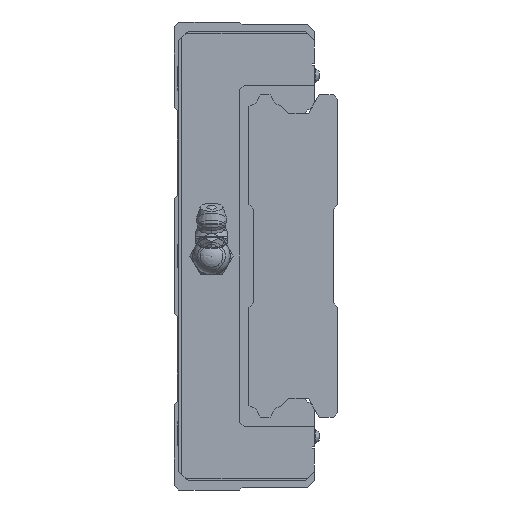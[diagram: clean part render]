
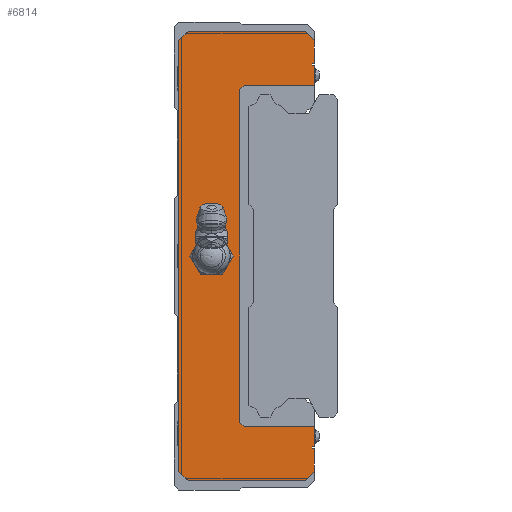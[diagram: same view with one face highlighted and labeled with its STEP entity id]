
A CAD part, left-side view. The second image highlights one B-rep face of the part: STEP entity #6814.
In plain terms, the highlighted planar face has unit normal (-1, 0, 0).
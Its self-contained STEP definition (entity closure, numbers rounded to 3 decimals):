
#124=LINE('',#10582,#548);
#139=LINE('',#10613,#563);
#146=LINE('',#10627,#570);
#150=LINE('',#10634,#574);
#158=LINE('',#10651,#582);
#161=LINE('',#10656,#585);
#180=LINE('',#10696,#604);
#181=LINE('',#10699,#605);
#182=LINE('',#10700,#606);
#183=LINE('',#10701,#607);
#184=LINE('',#10703,#608);
#185=LINE('',#10705,#609);
#186=LINE('',#10707,#610);
#187=LINE('',#10709,#611);
#188=LINE('',#10711,#612);
#189=LINE('',#10713,#613);
#190=LINE('',#10715,#614);
#191=LINE('',#10717,#615);
#192=LINE('',#10719,#616);
#193=LINE('',#10721,#617);
#194=LINE('',#10723,#618);
#195=LINE('',#10725,#619);
#548=VECTOR('',#8317,1000.);
#563=VECTOR('',#8334,1000.);
#570=VECTOR('',#8345,1000.);
#574=VECTOR('',#8351,1000.);
#582=VECTOR('',#8361,1000.);
#585=VECTOR('',#8366,1000.);
#604=VECTOR('',#8395,1000.);
#605=VECTOR('',#8396,1000.);
#606=VECTOR('',#8397,1000.);
#607=VECTOR('',#8398,1000.);
#608=VECTOR('',#8399,1000.);
#609=VECTOR('',#8400,1000.);
#610=VECTOR('',#8401,1000.);
#611=VECTOR('',#8402,1000.);
#612=VECTOR('',#8403,1000.);
#613=VECTOR('',#8404,1000.);
#614=VECTOR('',#8405,1000.);
#615=VECTOR('',#8406,1000.);
#616=VECTOR('',#8407,1000.);
#617=VECTOR('',#8408,1000.);
#618=VECTOR('',#8409,1000.);
#619=VECTOR('',#8410,1000.);
#937=PLANE('',#7329);
#1342=CIRCLE('',#7330,3.);
#1990=ORIENTED_EDGE('',*,*,#3574,.T.);
#1991=ORIENTED_EDGE('',*,*,#3575,.F.);
#1992=ORIENTED_EDGE('',*,*,#3576,.F.);
#1993=ORIENTED_EDGE('',*,*,#3543,.F.);
#1994=ORIENTED_EDGE('',*,*,#3539,.F.);
#1995=ORIENTED_EDGE('',*,*,#3532,.F.);
#1996=ORIENTED_EDGE('',*,*,#3577,.F.);
#1997=ORIENTED_EDGE('',*,*,#3517,.F.);
#1998=ORIENTED_EDGE('',*,*,#3554,.F.);
#1999=ORIENTED_EDGE('',*,*,#3551,.F.);
#2000=ORIENTED_EDGE('',*,*,#3578,.F.);
#2001=ORIENTED_EDGE('',*,*,#3579,.F.);
#2002=ORIENTED_EDGE('',*,*,#3580,.F.);
#2003=ORIENTED_EDGE('',*,*,#3581,.F.);
#2004=ORIENTED_EDGE('',*,*,#3582,.F.);
#2005=ORIENTED_EDGE('',*,*,#3583,.T.);
#2006=ORIENTED_EDGE('',*,*,#3584,.T.);
#2007=ORIENTED_EDGE('',*,*,#3585,.T.);
#2008=ORIENTED_EDGE('',*,*,#3586,.T.);
#2009=ORIENTED_EDGE('',*,*,#3587,.T.);
#2010=ORIENTED_EDGE('',*,*,#3588,.F.);
#2011=ORIENTED_EDGE('',*,*,#3589,.F.);
#2012=ORIENTED_EDGE('',*,*,#3590,.F.);
#3517=EDGE_CURVE('',#4326,#4327,#124,.T.);
#3532=EDGE_CURVE('',#4341,#4342,#139,.T.);
#3539=EDGE_CURVE('',#4342,#4347,#146,.T.);
#3543=EDGE_CURVE('',#4347,#4349,#150,.T.);
#3551=EDGE_CURVE('',#4356,#4357,#158,.T.);
#3554=EDGE_CURVE('',#4357,#4326,#161,.T.);
#3574=EDGE_CURVE('',#4373,#4373,#1342,.T.);
#3575=EDGE_CURVE('',#4374,#4375,#180,.T.);
#3576=EDGE_CURVE('',#4349,#4374,#181,.T.);
#3577=EDGE_CURVE('',#4327,#4341,#182,.T.);
#3578=EDGE_CURVE('',#4376,#4356,#183,.T.);
#3579=EDGE_CURVE('',#4377,#4376,#184,.T.);
#3580=EDGE_CURVE('',#4378,#4377,#185,.T.);
#3581=EDGE_CURVE('',#4379,#4378,#186,.T.);
#3582=EDGE_CURVE('',#4380,#4379,#187,.T.);
#3583=EDGE_CURVE('',#4380,#4381,#188,.T.);
#3584=EDGE_CURVE('',#4381,#4382,#189,.T.);
#3585=EDGE_CURVE('',#4382,#4383,#190,.T.);
#3586=EDGE_CURVE('',#4383,#4384,#191,.T.);
#3587=EDGE_CURVE('',#4384,#4385,#192,.T.);
#3588=EDGE_CURVE('',#4386,#4385,#193,.T.);
#3589=EDGE_CURVE('',#4387,#4386,#194,.T.);
#3590=EDGE_CURVE('',#4375,#4387,#195,.T.);
#4326=VERTEX_POINT('',#10581);
#4327=VERTEX_POINT('',#10583);
#4341=VERTEX_POINT('',#10612);
#4342=VERTEX_POINT('',#10614);
#4347=VERTEX_POINT('',#10628);
#4349=VERTEX_POINT('',#10635);
#4356=VERTEX_POINT('',#10650);
#4357=VERTEX_POINT('',#10652);
#4373=VERTEX_POINT('',#10695);
#4374=VERTEX_POINT('',#10697);
#4375=VERTEX_POINT('',#10698);
#4376=VERTEX_POINT('',#10702);
#4377=VERTEX_POINT('',#10704);
#4378=VERTEX_POINT('',#10706);
#4379=VERTEX_POINT('',#10708);
#4380=VERTEX_POINT('',#10710);
#4381=VERTEX_POINT('',#10712);
#4382=VERTEX_POINT('',#10714);
#4383=VERTEX_POINT('',#10716);
#4384=VERTEX_POINT('',#10718);
#4385=VERTEX_POINT('',#10720);
#4386=VERTEX_POINT('',#10722);
#4387=VERTEX_POINT('',#10724);
#5013=EDGE_LOOP('',(#1990));
#5014=EDGE_LOOP('',(#1991,#1992,#1993,#1994,#1995,#1996,#1997,#1998,#1999,
#2000,#2001,#2002,#2003,#2004,#2005,#2006,#2007,#2008,#2009,#2010,#2011,
#2012));
#5904=FACE_BOUND('',#5013,.T.);
#5905=FACE_BOUND('',#5014,.T.);
#6814=ADVANCED_FACE('',(#5904,#5905),#937,.F.);
#7329=AXIS2_PLACEMENT_3D('',#10693,#8391,#8392);
#7330=AXIS2_PLACEMENT_3D('',#10694,#8393,#8394);
#8317=DIRECTION('',(0.,0.707,0.707));
#8334=DIRECTION('',(0.,-0.707,0.707));
#8345=DIRECTION('',(0.,-1.,0.));
#8351=DIRECTION('',(0.,-0.707,-0.707));
#8361=DIRECTION('',(0.,0.707,-0.707));
#8366=DIRECTION('',(0.,1.,0.));
#8391=DIRECTION('',(1.,0.,0.));
#8392=DIRECTION('',(0.,0.,-1.));
#8393=DIRECTION('',(1.,0.,0.));
#8394=DIRECTION('',(0.,0.,-1.));
#8395=DIRECTION('',(0.,1.,0.));
#8396=DIRECTION('',(0.,0.,-1.));
#8397=DIRECTION('',(0.,0.,1.));
#8398=DIRECTION('',(0.,0.,-1.));
#8399=DIRECTION('',(0.,-1.,0.));
#8400=DIRECTION('',(0.,0.,-1.));
#8401=DIRECTION('',(0.,1.,0.));
#8402=DIRECTION('',(0.,0.,-1.));
#8403=DIRECTION('',(0.,1.,0.));
#8404=DIRECTION('',(0.,0.707,0.707));
#8405=DIRECTION('',(0.,0.,1.));
#8406=DIRECTION('',(0.,-0.707,0.707));
#8407=DIRECTION('',(0.,-1.,0.));
#8408=DIRECTION('',(0.,0.,-1.));
#8409=DIRECTION('',(0.,-1.,0.));
#8410=DIRECTION('',(0.,0.,-1.));
#10581=CARTESIAN_POINT('',(-51.8,28.,-48.));
#10582=CARTESIAN_POINT('',(-51.8,28.,-48.));
#10583=CARTESIAN_POINT('',(-51.8,30.,-46.));
#10612=CARTESIAN_POINT('',(-51.8,30.,46.));
#10613=CARTESIAN_POINT('',(-51.8,30.,46.));
#10614=CARTESIAN_POINT('',(-51.8,28.,48.));
#10627=CARTESIAN_POINT('',(-51.8,31.,48.));
#10628=CARTESIAN_POINT('',(-51.8,3.,48.));
#10634=CARTESIAN_POINT('',(-51.8,3.,48.));
#10635=CARTESIAN_POINT('',(-51.8,1.,46.));
#10650=CARTESIAN_POINT('',(-51.8,1.,-46.));
#10651=CARTESIAN_POINT('',(-51.8,1.,-46.));
#10652=CARTESIAN_POINT('',(-51.8,3.,-48.));
#10656=CARTESIAN_POINT('',(-51.8,0.,-48.));
#10693=CARTESIAN_POINT('',(-51.8,0.,0.));
#10694=CARTESIAN_POINT('',(-51.8,23.,0.));
#10695=CARTESIAN_POINT('',(-51.8,23.,-3.));
#10696=CARTESIAN_POINT('',(-51.8,0.,41.1));
#10697=CARTESIAN_POINT('',(-51.8,1.,41.1));
#10698=CARTESIAN_POINT('',(-51.8,1.5,41.1));
#10699=CARTESIAN_POINT('',(-51.8,1.,47.95));
#10700=CARTESIAN_POINT('',(-51.8,30.,-46.));
#10701=CARTESIAN_POINT('',(-51.8,1.,47.95));
#10702=CARTESIAN_POINT('',(-51.8,1.,-41.1));
#10703=CARTESIAN_POINT('',(-51.8,0.,-41.1));
#10704=CARTESIAN_POINT('',(-51.8,1.5,-41.1));
#10705=CARTESIAN_POINT('',(-51.8,1.5,0.));
#10706=CARTESIAN_POINT('',(-51.8,1.5,-40.8));
#10707=CARTESIAN_POINT('',(-51.8,0.,-40.8));
#10708=CARTESIAN_POINT('',(-51.8,1.,-40.8));
#10709=CARTESIAN_POINT('',(-51.8,1.,47.95));
#10710=CARTESIAN_POINT('',(-51.8,1.,-36.5));
#10711=CARTESIAN_POINT('',(-51.8,1.,-36.5));
#10712=CARTESIAN_POINT('',(-51.8,16.,-36.5));
#10713=CARTESIAN_POINT('',(-51.8,16.,-36.5));
#10714=CARTESIAN_POINT('',(-51.8,17.,-35.5));
#10715=CARTESIAN_POINT('',(-51.8,17.,-35.5));
#10716=CARTESIAN_POINT('',(-51.8,17.,35.5));
#10717=CARTESIAN_POINT('',(-51.8,17.,35.5));
#10718=CARTESIAN_POINT('',(-51.8,16.,36.5));
#10719=CARTESIAN_POINT('',(-51.8,16.,36.5));
#10720=CARTESIAN_POINT('',(-51.8,1.,36.5));
#10721=CARTESIAN_POINT('',(-51.8,1.,47.95));
#10722=CARTESIAN_POINT('',(-51.8,1.,40.8));
#10723=CARTESIAN_POINT('',(-51.8,0.,40.8));
#10724=CARTESIAN_POINT('',(-51.8,1.5,40.8));
#10725=CARTESIAN_POINT('',(-51.8,1.5,0.));
